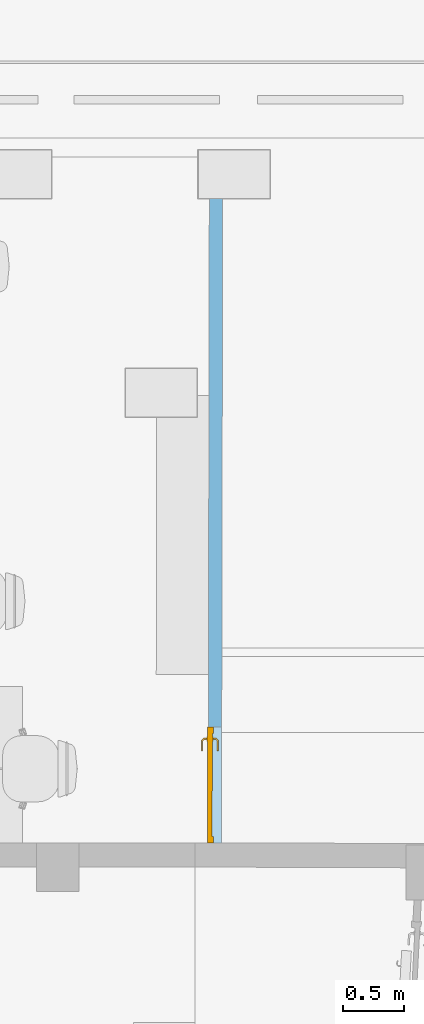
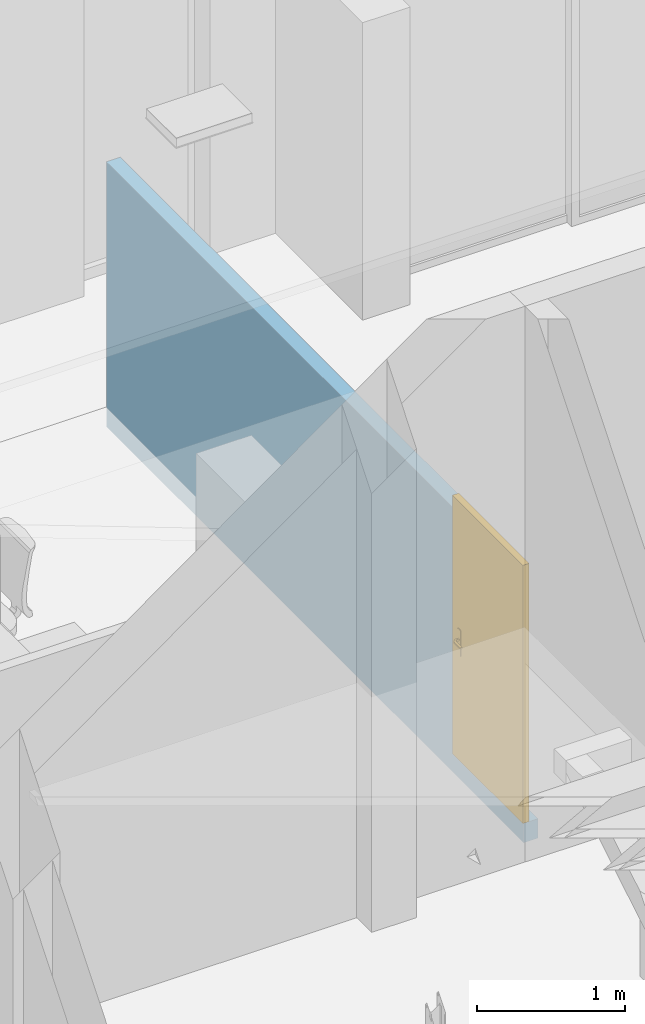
# One storey, part 46 of 128: 1 door, 1 opening, plus 1 element that does not belong to this part.
"""IFC2X3 building model written with IfcOpenShell, lengths in metres."""

from ifc_helpers import new_model, entity, si_unit, converted_unit, derived_unit, direction, frame, frame_2d, origin, place, context, subcontext, project, spatial, rectangle, extrude, faceted_brep, source, transform, mapped, material, layer, layer_set, layer_usage, type_object, type_shapes, element, fill, save


model = new_model("IFC2X3")

# Units and contexts
model_context = context("Model", 3, precision=1e-05, world=origin(), true_north=direction((6.123031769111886e-17, 1.0)))
body_context = subcontext(model_context, "Body", "Model", "MODEL_VIEW")
ifc_project = project(units=[si_unit("LENGTHUNIT", "METRE"), si_unit("AREAUNIT", "SQUARE_METRE"), converted_unit("PLANEANGLEUNIT", "DEGREE", entity("IfcPlaneAngleMeasure", 0.017453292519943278), si_unit("PLANEANGLEUNIT", "RADIAN"), dimensions=[0, 0, 0, 0, 0, 0, 0]), derived_unit("THERMALTRANSMITTANCEUNIT", [(si_unit("MASSUNIT", "GRAM", prefix="KILO"), 1), (si_unit("THERMODYNAMICTEMPERATUREUNIT", "KELVIN"), -1), (si_unit("TIMEUNIT", "SECOND"), -3)])], contexts=[model_context])

# Site, building, storey
site_placement = place(None, origin())
site = spatial("IfcSite", under=ifc_project, at=site_placement, Name="Default", CompositionType="ELEMENT")
building_placement = place(site_placement, origin())
building = spatial("IfcBuilding", under=site, at=building_placement, CompositionType="ELEMENT")
storey_placement = place(building_placement, origin())
storey = spatial("IfcBuildingStorey", under=building, at=storey_placement, Name="00_RDC CAF", CompositionType="ELEMENT", Elevation=2.4982504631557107e-13)

# Wall, opening, door
ifc_material_1 = material(Name="ARC - Cloison")
ifc_layer = layer(ifc_material_1, 0.11)
ifc_layer_set = layer_set([ifc_layer], Name="Mur de base:Cl_Platre_110mm")
ifc_layer_usage = layer_usage(ifc_layer_set, "AXIS2", "NEGATIVE", 0.055)
wall_type = type_object("IfcWallType", Name="Mur de base:Cl_Platre_110mm", PredefinedType="STANDARD", material=ifc_layer_set)
wall_placement = place(storey_placement, frame((23.050521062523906, 142.5317437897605, 0.0), z_axis=(0.0, 0.0, 1.0), x_axis=(-0.0018280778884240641, -0.9999983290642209, 0.0)))
wall = element("IfcWallStandardCase", 1, at=wall_placement, inside=storey, type_object=wall_type, material=ifc_layer_usage, Name="Mur de base:Cl_Platre_110mm", ObjectType="Mur de base:Cl_Platre_110mm", context=body_context, shape_type="SweptSolid", body=[
    extrude(rectangle(XDim=5.649930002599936, YDim=0.10999999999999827, at=frame_2d((2.824965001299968, 5.793976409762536e-16), x_axis=(-1.0, 0.0))), origin(), (0.0, 0.0, 1.0), 2.1800000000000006),
])
opening_placement = place(wall_placement, frame((5.649930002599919, 0.05500000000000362, 0.1600000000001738)))
opening = element("IfcOpeningElement", 2, at=opening_placement, cuts=wall, Name="P_Tunnel_Simple:P_Int_Simple_Pleine_950x2090mm:1", ObjectType="Opening", context=body_context, shape_type="SweptSolid", body=[
    extrude(rectangle(XDim=2.126861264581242, YDim=0.9537225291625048, at=frame_2d((1.063430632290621, 0.4768612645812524), x_axis=(1.0, 0.0))), frame((0.0, 0.0, 0.0), z_axis=(0.0, -1.0, 0.0), x_axis=(0.0, 0.0, 1.0)), (0.0, 0.0, 1.0), 0.11),
])
ifc_material_2 = material(Name="ARC - M.In - Blanc")
door_style = type_object("IfcDoorStyle", Name="P_Tunnel_Simple:P_Int_Simple_Pleine_950x2090mm", ConstructionType="NOTDEFINED", OperationType="NOTDEFINED", ParameterTakesPrecedence=False, Sizeable=False, material=ifc_material_2)
shared_shape = source(origin(), body_context, "Body", "Brep", [
    faceted_brep([(1.0948359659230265, 0.04500000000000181, 1.0077804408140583), (1.0908612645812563, 0.04500000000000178, 1.0069999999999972), (1.0908612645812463, 0.04500000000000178, 0.9929999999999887), (1.0948359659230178, 0.04500000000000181, 0.9922195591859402), (1.098886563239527, 0.04500000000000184, 0.9922195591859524), (1.1028612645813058, 0.04500000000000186, 0.9930000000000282), (1.1028612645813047, 0.04500000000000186, 1.006999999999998), (1.0988865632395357, 0.04500000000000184, 1.0077804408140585), (1.1028612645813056, 0.06748520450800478, 0.9930000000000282), (1.1028612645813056, 0.06748520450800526, 1.006999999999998), (1.098886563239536, 0.06913157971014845, 1.0077804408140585), (1.1127001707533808, 0.08294518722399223, 1.0077804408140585), (1.1110223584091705, 0.0869957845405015, 1.0077804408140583), (1.0948359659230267, 0.07080939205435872, 1.0077804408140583), (1.0908612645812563, 0.07245576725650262, 1.0069999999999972), (1.090861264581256, 0.07245576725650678, 0.9929999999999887), (1.0948359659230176, 0.07080939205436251, 0.9922195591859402), (1.1110223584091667, 0.0869957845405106, 0.9922195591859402), (1.1127001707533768, 0.08294518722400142, 0.9922195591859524), (1.0988865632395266, 0.06913157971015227, 0.9922195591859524), (1.1143465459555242, 0.07897048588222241, 0.9930000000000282), (1.1143465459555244, 0.07897048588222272, 1.006999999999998), (1.109375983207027, 0.09097048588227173, 1.0069999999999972), (1.1093759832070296, 0.09097048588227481, 0.9929999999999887), (1.1969070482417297, 0.07897048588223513, 0.9930000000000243), (1.1969070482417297, 0.08294518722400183, 0.9922195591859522), (1.1969070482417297, 0.08699578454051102, 0.99221955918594), (1.1969070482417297, 0.09097048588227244, 0.9929999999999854), (1.1969070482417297, 0.09097048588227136, 1.0069999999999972), (1.1969070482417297, 0.08699578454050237, 1.007780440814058), (1.1969070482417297, 0.0829451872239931, 1.0077804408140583), (1.1969070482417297, 0.0789704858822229, 1.0069999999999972), (1.1556267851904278, 0.07897048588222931, 0.9930000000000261), (1.1556267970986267, 0.07897048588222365, 1.0069999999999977), (1.1548036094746, 0.08497048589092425, 1.0078786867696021), (1.1493064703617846, 0.09097048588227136, 1.0069999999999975), (1.1493064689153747, 0.09097048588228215, 0.9929999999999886), (1.1548036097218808, 0.08497048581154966, 0.9921213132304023)], [[[0, 1, 2, 3, 4, 5, 6, 7]], [[6, 5, 8, 9]], [[9, 10, 7, 6]], [[10, 11, 12, 13, 0, 7]], [[13, 14, 1, 0]], [[2, 1, 14, 15]], [[15, 16, 3, 2]], [[16, 17, 18, 19, 4, 3]], [[19, 8, 5, 4]], [[9, 8, 20, 21]], [[21, 11, 10, 9]], [[12, 22, 14, 13]], [[15, 14, 22, 23]], [[23, 17, 16, 15]], [[18, 20, 8, 19]], [[24, 25, 26, 27, 28, 29, 30, 31]], [[21, 20, 32, 24, 31, 33]], [[33, 30, 34]], [[35, 34, 29]], [[21, 33, 11]], [[33, 31, 30]], [[28, 35, 29]], [[22, 12, 35]], [[35, 12, 34]], [[12, 11, 34]], [[11, 33, 34]], [[29, 34, 30]], [[22, 35, 28, 27, 36, 23]], [[36, 26, 37]], [[27, 26, 36]], [[17, 23, 36]], [[37, 32, 18]], [[20, 18, 32]], [[32, 25, 24]], [[26, 25, 37]], [[25, 32, 37]], [[17, 36, 37]], [[17, 37, 18]]]),
    faceted_brep([(1.0948359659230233, -0.00499999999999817, 1.0077804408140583), (1.0988865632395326, -0.004999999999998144, 1.0077804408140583), (1.102861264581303, -0.004999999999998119, 1.006999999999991), (1.102861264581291, -0.004999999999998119, 0.9930000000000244), (1.0988865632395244, -0.004999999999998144, 0.9922195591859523), (1.0948359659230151, -0.00499999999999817, 0.9922195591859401), (1.0908612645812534, -0.004999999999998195, 0.9929999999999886), (1.0908612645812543, -0.004999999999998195, 1.0069999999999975), (1.0908612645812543, -0.03265095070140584, 1.0069999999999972), (1.0948359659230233, -0.031004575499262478, 1.0077804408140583), (1.1108848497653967, -0.047053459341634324, 1.0077804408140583), (1.1125626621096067, -0.04300286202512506, 1.0077804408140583), (1.0988865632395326, -0.029326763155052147, 1.0077804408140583), (1.102861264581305, -0.027680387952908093, 1.0069999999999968), (1.1028612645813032, -0.027680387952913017, 0.9930000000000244), (1.0988865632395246, -0.02932676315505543, 0.9922195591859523), (1.1125626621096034, -0.043002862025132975, 0.9922195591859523), (1.1108848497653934, -0.04705345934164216, 0.9922195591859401), (1.0948359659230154, -0.031004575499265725, 0.9922195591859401), (1.0908612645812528, -0.03265095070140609, 0.9929999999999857), (1.1092384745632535, -0.051028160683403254, 1.0069999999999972), (1.114209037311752, -0.039028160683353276, 1.0069999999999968), (1.114209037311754, -0.03902816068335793, 0.9930000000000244), (1.1092384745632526, -0.05102816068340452, 0.9929999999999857), (1.1968799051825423, -0.05102816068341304, 0.9929999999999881), (1.1968799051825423, -0.04705345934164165, 0.9922195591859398), (1.1968799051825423, -0.04300286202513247, 0.992219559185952), (1.1968799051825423, -0.039028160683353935, 0.9930000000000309), (1.1968799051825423, -0.03902816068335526, 1.0069999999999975), (1.1968799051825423, -0.043002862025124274, 1.007780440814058), (1.1968799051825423, -0.047053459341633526, 1.0077804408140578), (1.1968799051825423, -0.05102816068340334, 1.0069999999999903), (1.149168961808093, -0.051028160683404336, 1.0069999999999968), (1.1547212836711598, -0.045028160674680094, 1.007878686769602), (1.155544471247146, -0.039028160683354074, 1.0069999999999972), (1.1555444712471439, -0.039028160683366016, 0.9930000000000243), (1.1547212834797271, -0.045028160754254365, 0.9921213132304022), (1.1491689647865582, -0.0510281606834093, 0.992999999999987)], [[[0, 1, 2, 3, 4, 5, 6, 7]], [[8, 9, 0, 7]], [[9, 10, 11, 12, 1, 0]], [[12, 13, 2, 1]], [[3, 2, 13, 14]], [[14, 15, 4, 3]], [[15, 16, 17, 18, 5, 4]], [[18, 19, 6, 5]], [[7, 6, 19, 8]], [[20, 10, 9, 8]], [[11, 21, 13, 12]], [[14, 13, 21, 22]], [[22, 16, 15, 14]], [[17, 23, 19, 18]], [[8, 19, 23, 20]], [[24, 25, 26, 27, 28, 29, 30, 31]], [[32, 30, 33]], [[31, 30, 32]], [[10, 20, 32]], [[33, 34, 11]], [[21, 11, 34]], [[34, 29, 28]], [[30, 29, 33]], [[29, 34, 33]], [[10, 32, 33]], [[10, 33, 11]], [[22, 21, 34, 28, 27, 35]], [[35, 26, 36]], [[37, 36, 25]], [[22, 35, 16]], [[35, 27, 26]], [[24, 37, 25]], [[23, 17, 37]], [[37, 17, 36]], [[17, 16, 36]], [[16, 35, 36]], [[25, 36, 26]], [[20, 23, 37, 24, 31, 32]]]),
    faceted_brep([(1.107214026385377, 0.04000000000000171, 0.866003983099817), (1.1168612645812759, 0.04000000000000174, 0.8700000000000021), (1.1168612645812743, 0.04000000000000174, 1.0800000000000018), (1.1072140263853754, 0.04000000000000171, 1.083996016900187), (1.0968612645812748, 0.04000000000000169, 1.0853589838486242), (1.0865085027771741, 0.04000000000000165, 1.0839960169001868), (1.076861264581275, 0.04000000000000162, 1.0800000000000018), (1.0768612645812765, 0.04000000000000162, 0.8700000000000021), (1.0865085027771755, 0.04000000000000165, 0.8660039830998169), (1.096861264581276, 0.04000000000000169, 0.8646410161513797), (1.1072140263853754, 0.04500000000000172, 1.083996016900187), (1.1168612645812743, 0.04500000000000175, 1.0800000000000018), (1.1168612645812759, 0.04500000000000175, 0.8700000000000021), (1.107214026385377, 0.04500000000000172, 0.866003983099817), (1.096861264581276, 0.045000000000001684, 0.8646410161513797), (1.0865085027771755, 0.04500000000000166, 0.8660039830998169), (1.076861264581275, 0.04500000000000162, 0.870000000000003), (1.076861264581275, 0.04500000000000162, 1.0800000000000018), (1.0865085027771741, 0.04500000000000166, 1.0839960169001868), (1.0968612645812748, 0.045000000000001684, 1.0853589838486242)], [[[0, 1, 2, 3, 4, 5, 6, 7, 8, 9]], [[10, 11, 12, 13, 14, 15, 16, 17, 18, 19]], [[11, 10, 3, 2]], [[3, 10, 19, 4]], [[19, 18, 5, 4]], [[18, 17, 6, 5]], [[7, 6, 17, 16]], [[16, 15, 8, 7]], [[8, 15, 14, 9]], [[14, 13, 0, 9]], [[13, 12, 1, 0]], [[2, 1, 12, 11]]]),
    faceted_brep([(1.107214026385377, -0.004999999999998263, 0.866003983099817), (1.1168612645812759, -0.004999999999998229, 0.8700000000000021), (1.1168612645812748, -0.004999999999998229, 1.0800000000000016), (1.1072140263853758, -0.004999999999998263, 1.0839960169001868), (1.0968612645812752, -0.004999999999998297, 1.0853589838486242), (1.0865085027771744, -0.004999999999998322, 1.083996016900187), (1.0768612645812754, -0.004999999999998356, 1.0800000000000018), (1.0768612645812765, -0.004999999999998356, 0.8700000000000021), (1.0865085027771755, -0.004999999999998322, 0.866003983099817), (1.0968612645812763, -0.004999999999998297, 0.8646410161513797), (1.1072140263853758, 0.0, 1.0839960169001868), (1.1168612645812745, 0.0, 1.0800000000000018), (1.1168612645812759, 0.0, 0.8700000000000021), (1.107214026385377, 0.0, 0.866003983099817), (1.0968612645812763, 0.0, 0.8646410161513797), (1.0865085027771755, 0.0, 0.866003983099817), (1.076861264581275, 0.0, 0.8700000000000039), (1.0768612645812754, 0.0, 1.0800000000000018), (1.0865085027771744, 0.0, 1.083996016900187), (1.0968612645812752, 0.0, 1.0853589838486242)], [[[0, 1, 2, 3, 4, 5, 6, 7, 8, 9]], [[10, 11, 12, 13, 14, 15, 16, 17, 18, 19]], [[16, 15, 8, 7]], [[8, 15, 14, 9]], [[14, 13, 0, 9]], [[13, 12, 1, 0]], [[2, 1, 12, 11]], [[11, 10, 3, 2]], [[3, 10, 19, 4]], [[19, 18, 5, 4]], [[18, 17, 6, 5]], [[7, 6, 17, 16]]]),
    faceted_brep([(1.0368612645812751, 0.04000000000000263, 2.09), (1.9168612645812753, 0.040000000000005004, 2.09), (1.9168612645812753, 0.040000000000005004, 0.0), (1.0368612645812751, 0.04000000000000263, 0.0), (1.9168612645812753, 0.0, 2.09), (1.9168612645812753, 0.0, 0.0), (1.0368612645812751, 0.0, 0.0), (1.0368612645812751, 0.0, 2.09)], [[[0, 1, 2, 3]], [[2, 1, 4, 5]], [[3, 2, 5, 6]], [[0, 3, 6, 7]], [[7, 6, 5, 4]], [[1, 0, 7, 4]]]),
    faceted_brep([(1.9537225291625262, 0.050000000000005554, 0.0), (1.9537225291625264, 0.0, 0.0), (1.9168612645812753, 0.0, 0.0), (1.9168612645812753, 0.04000000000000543, 0.0), (1.9018612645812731, 0.04000000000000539, 0.0), (1.9018612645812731, 0.05000000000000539, 0.0), (1.9018612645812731, 0.05000000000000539, 2.0749999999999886), (1.051861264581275, 0.05000000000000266, 2.0749999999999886), (1.051861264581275, 0.05000000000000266, 0.0), (1.0, 0.05000000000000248, 0.0), (1.0, 0.05000000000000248, 2.1268612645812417), (1.9537225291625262, 0.050000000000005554, 2.126861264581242), (1.901861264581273, 0.04000000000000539, 2.0749999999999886), (1.9168612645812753, 0.04000000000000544, 2.089999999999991), (1.036861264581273, 0.040000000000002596, 2.089999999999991), (1.036861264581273, 0.040000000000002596, 0.0), (1.051861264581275, 0.04000000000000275, 0.0), (1.0518612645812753, 0.04000000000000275, 2.0749999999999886), (1.9168612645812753, 0.0, 2.089999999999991), (1.9537225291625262, 0.0, 2.1268612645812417), (1.0, 0.0, 2.1268612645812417), (1.0, 0.0, 0.0), (1.0368612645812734, 0.0, 0.0), (1.0368612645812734, 0.0, 2.089999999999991)], [[[0, 1, 2, 3, 4, 5]], [[5, 6, 7, 8, 9, 10, 11, 0]], [[4, 12, 6, 5]], [[3, 13, 14, 15, 16, 17, 12, 4]], [[2, 18, 13, 3]], [[1, 19, 20, 21, 22, 23, 18, 2]], [[0, 11, 19, 1]], [[10, 9, 21, 20]], [[9, 8, 16, 15, 22, 21]], [[17, 16, 8, 7]], [[23, 22, 15, 14]], [[12, 17, 7, 6]], [[18, 23, 14, 13]], [[11, 10, 20, 19]]]),
])
type_shapes(door_style, [shared_shape])
door_placement = place(opening_placement, frame((-1.9538292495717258, -0.1167568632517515, 0.0)))
door = element("IfcDoor", 3, at=door_placement, inside=storey, type_object=door_style, material=ifc_material_2, Name="P_Tunnel_Simple:P_Int_Simple_Pleine_950x2090mm", ObjectType="P_Tunnel_Simple:P_Int_Simple_Pleine_950x2090mm", OverallHeight=2.126861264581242, OverallWidth=0.9537225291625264, context=body_context, shape_type="MappedRepresentation", body=[
    mapped(shared_shape, transform((0.0, 0.0, 0.0), scale=1.0)),
])
fill(opening, door)

save(model, "model.ifc")
